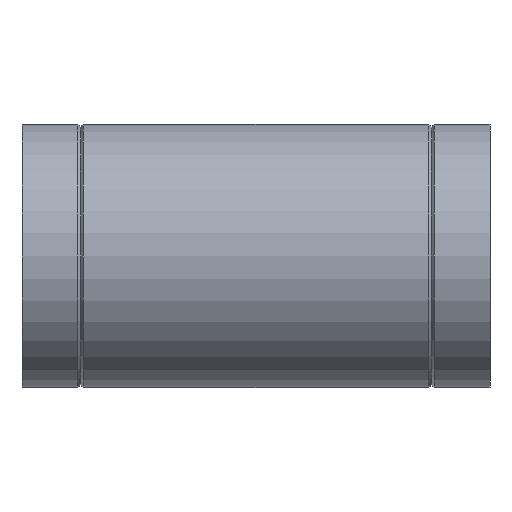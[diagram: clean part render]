
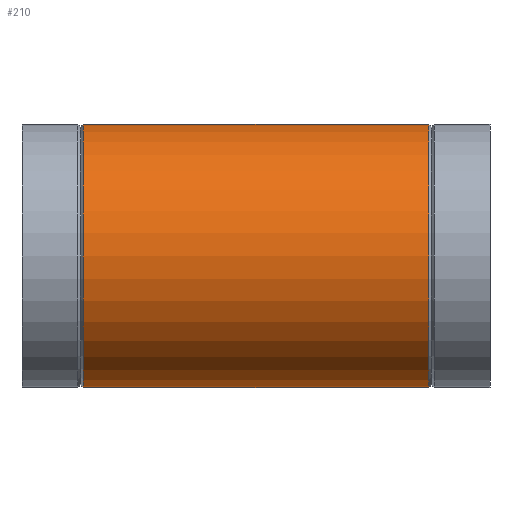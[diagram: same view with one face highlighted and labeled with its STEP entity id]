
A CAD part, left-side view. The second image highlights one B-rep face of the part: STEP entity #210.
In plain terms, the highlighted cylindrical face has radius 157.5 mm (diameter 315 mm), a full revolution.
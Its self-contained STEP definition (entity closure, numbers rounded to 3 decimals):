
#15=ELLIPSE($,#234,219.879,157.5);
#16=ELLIPSE($,#235,225.712,157.5);
#19=CYLINDRICAL_SURFACE($,#232,157.5);
#28=FACE_BOUND($,#65,.T.);
#29=FACE_BOUND($,#66,.T.);
#50=FACE_OUTER_BOUND($,#64,.T.);
#64=EDGE_LOOP($,(#151));
#65=EDGE_LOOP($,(#152,#153));
#66=EDGE_LOOP($,(#154));
#96=CIRCLE($,#231,157.5);
#97=CIRCLE($,#233,157.5);
#111=VERTEX_POINT($,#341);
#112=VERTEX_POINT($,#344);
#113=VERTEX_POINT($,#346);
#114=VERTEX_POINT($,#347);
#130=EDGE_CURVE($,#111,#111,#96,.T.);
#131=EDGE_CURVE($,#112,#112,#97,.T.);
#132=EDGE_CURVE($,#113,#114,#15,.T.);
#133=EDGE_CURVE($,#114,#113,#16,.T.);
#151=ORIENTED_EDGE($,*,*,#131,.T.);
#152=ORIENTED_EDGE($,*,*,#132,.T.);
#153=ORIENTED_EDGE($,*,*,#133,.T.);
#154=ORIENTED_EDGE($,*,*,#130,.T.);
#210=ADVANCED_FACE($,(#50,#28,#29),#19,.T.);
#231=AXIS2_PLACEMENT_3D($,#342,#272,#273);
#232=AXIS2_PLACEMENT_3D($,#343,#274,#275);
#233=AXIS2_PLACEMENT_3D($,#345,#276,#277);
#234=AXIS2_PLACEMENT_3D($,#348,#278,#279);
#235=AXIS2_PLACEMENT_3D($,#349,#280,#281);
#272=DIRECTION('center_axis',(0.,-1.,0.));
#273=DIRECTION('ref_axis',(1.,0.,0.));
#274=DIRECTION('center_axis',(0.,1.,0.));
#275=DIRECTION('ref_axis',(1.,0.,0.));
#276=DIRECTION('center_axis',(0.,1.,0.));
#277=DIRECTION('ref_axis',(1.,0.,0.));
#278=DIRECTION('center_axis',(-0.698,-0.716,0.));
#279=DIRECTION('ref_axis',(0.716,-0.698,0.));
#280=DIRECTION('center_axis',(-0.716,0.698,0.));
#281=DIRECTION('ref_axis',(-0.698,-0.716,0.));
#341=CARTESIAN_POINT('',(157.5,486.85,0.));
#342=CARTESIAN_POINT('Origin',(0.,486.85,0.));
#343=CARTESIAN_POINT('Origin',(0.,0.,0.));
#344=CARTESIAN_POINT('',(-157.5,73.15,0.));
#345=CARTESIAN_POINT('Origin',(0.,73.15,0.));
#346=CARTESIAN_POINT('',(0.,280.,-157.5));
#347=CARTESIAN_POINT('',(0.,280.,157.5));
#348=CARTESIAN_POINT('Origin',(0.,280.,0.));
#349=CARTESIAN_POINT('Origin',(0.,280.,0.));
